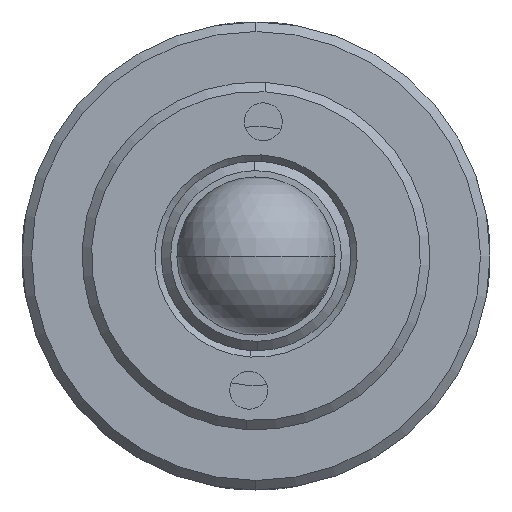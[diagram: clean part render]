
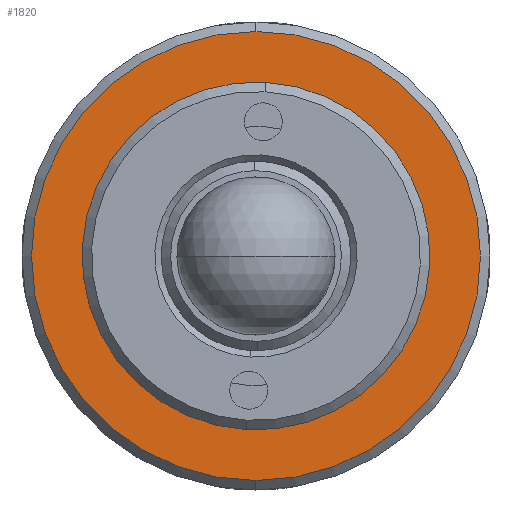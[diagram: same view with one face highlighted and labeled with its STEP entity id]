
A CAD part, left-side view. The second image highlights one B-rep face of the part: STEP entity #1820.
In plain terms, the highlighted planar face has unit normal (-1, 0, 0).
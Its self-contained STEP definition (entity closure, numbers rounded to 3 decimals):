
#56 = ORIENTED_EDGE ( 'NONE', *, *, #1435, .F. ) ;
#86 = CARTESIAN_POINT ( 'NONE',  ( 5.131, -0.142, 30. ) ) ;
#89 = AXIS2_PLACEMENT_3D ( 'NONE', #235, #374, #241 ) ;
#102 = VERTEX_POINT ( 'NONE', #466 ) ;
#185 = CARTESIAN_POINT ( 'NONE',  ( 5.131, -0.142, 22.9 ) ) ;
#198 = DIRECTION ( 'NONE',  ( 0., 0., 1. ) ) ;
#235 = CARTESIAN_POINT ( 'NONE',  ( 5.131, -0.142, 30. ) ) ;
#238 = ORIENTED_EDGE ( 'NONE', *, *, #456, .T. ) ;
#241 = DIRECTION ( 'NONE',  ( 0., 0., 1. ) ) ;
#299 = FACE_OUTER_BOUND ( 'NONE', #840, .T. ) ;
#327 = CARTESIAN_POINT ( 'NONE',  ( 5.131, -0.142, 30. ) ) ;
#357 = DIRECTION ( 'NONE',  ( 0., 0., 1. ) ) ;
#374 = DIRECTION ( 'NONE',  ( -1., 0., 0. ) ) ;
#387 = FACE_BOUND ( 'NONE', #460, .T. ) ;
#426 = VERTEX_POINT ( 'NONE', #185 ) ;
#456 = EDGE_CURVE ( 'NONE', #1165, #426, #795, .T. ) ;
#460 = EDGE_LOOP ( 'NONE', ( #1762, #56 ) ) ;
#466 = CARTESIAN_POINT ( 'NONE',  ( 5.131, -0.142, 34.75 ) ) ;
#512 = VERTEX_POINT ( 'NONE', #1650 ) ;
#750 = CARTESIAN_POINT ( 'NONE',  ( 5.131, -0.142, 37.1 ) ) ;
#758 = DIRECTION ( 'NONE',  ( -1., 0., 0. ) ) ;
#772 = CIRCLE ( 'NONE', #89, 4.75 ) ;
#795 = CIRCLE ( 'NONE', #1539, 7.1 ) ;
#820 = EDGE_CURVE ( 'NONE', #426, #1165, #1838, .T. ) ;
#840 = EDGE_LOOP ( 'NONE', ( #1282, #238 ) ) ;
#1008 = CIRCLE ( 'NONE', #1332, 4.75 ) ;
#1165 = VERTEX_POINT ( 'NONE', #750 ) ;
#1275 = AXIS2_PLACEMENT_3D ( 'NONE', #1656, #1805, #1514 ) ;
#1282 = ORIENTED_EDGE ( 'NONE', *, *, #820, .T. ) ;
#1332 = AXIS2_PLACEMENT_3D ( 'NONE', #327, #1759, #198 ) ;
#1348 = EDGE_CURVE ( 'NONE', #102, #512, #772, .T. ) ;
#1368 = PLANE ( 'NONE',  #1275 ) ;
#1435 = EDGE_CURVE ( 'NONE', #512, #102, #1008, .T. ) ;
#1499 = DIRECTION ( 'NONE',  ( -1., 0., 0. ) ) ;
#1514 = DIRECTION ( 'NONE',  ( 0., 0., 1. ) ) ;
#1539 = AXIS2_PLACEMENT_3D ( 'NONE', #1788, #1499, #357 ) ;
#1650 = CARTESIAN_POINT ( 'NONE',  ( 5.131, -0.142, 25.25 ) ) ;
#1656 = CARTESIAN_POINT ( 'NONE',  ( 5.131, -0.142, 30. ) ) ;
#1753 = DIRECTION ( 'NONE',  ( 0., 0., 1. ) ) ;
#1759 = DIRECTION ( 'NONE',  ( -1., 0., 0. ) ) ;
#1762 = ORIENTED_EDGE ( 'NONE', *, *, #1348, .F. ) ;
#1788 = CARTESIAN_POINT ( 'NONE',  ( 5.131, -0.142, 30. ) ) ;
#1805 = DIRECTION ( 'NONE',  ( -1., 0., 0. ) ) ;
#1806 = AXIS2_PLACEMENT_3D ( 'NONE', #86, #758, #1753 ) ;
#1820 = ADVANCED_FACE ( 'NONE', ( #299, #387 ), #1368, .T. ) ;
#1838 = CIRCLE ( 'NONE', #1806, 7.1 ) ;
